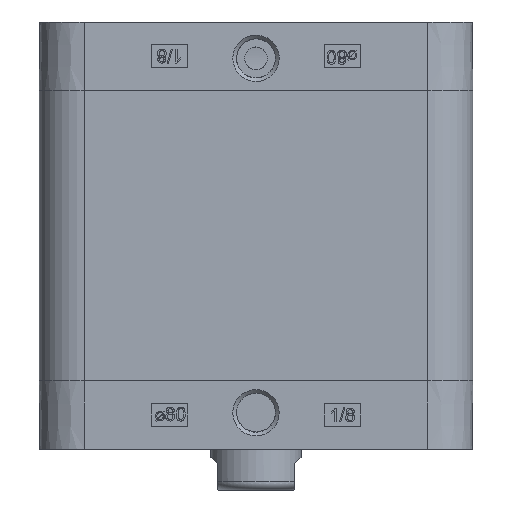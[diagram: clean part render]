
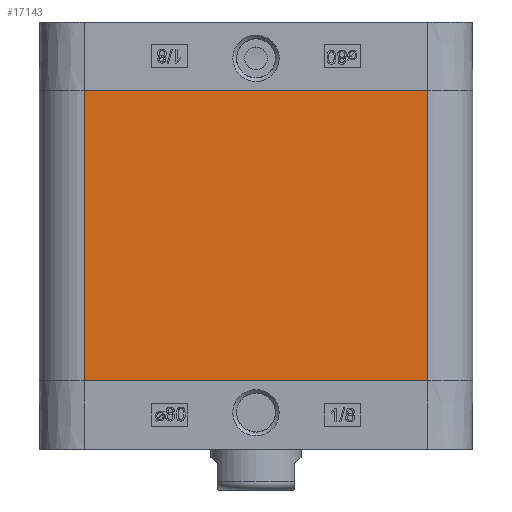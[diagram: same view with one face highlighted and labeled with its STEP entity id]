
A CAD part, left-side view. The second image highlights one B-rep face of the part: STEP entity #17143.
In plain terms, the highlighted planar face has unit normal (-1, 0, 0).
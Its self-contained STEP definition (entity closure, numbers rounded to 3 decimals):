
#1009=PLANE('',#18142);
#1917=LINE('',#26685,#2985);
#1918=LINE('',#26687,#2986);
#1919=LINE('',#26689,#2987);
#1920=LINE('',#26691,#2988);
#2985=VECTOR('',#20961,1000.);
#2986=VECTOR('',#20964,1000.);
#2987=VECTOR('',#20965,1000.);
#2988=VECTOR('',#20966,1000.);
#6166=ORIENTED_EDGE('',*,*,#8321,.T.);
#6167=ORIENTED_EDGE('',*,*,#8320,.F.);
#6168=ORIENTED_EDGE('',*,*,#8322,.F.);
#6169=ORIENTED_EDGE('',*,*,#8323,.T.);
#8320=EDGE_CURVE('',#9692,#9689,#1917,.T.);
#8321=EDGE_CURVE('',#9693,#9689,#1918,.T.);
#8322=EDGE_CURVE('',#9694,#9692,#1919,.T.);
#8323=EDGE_CURVE('',#9694,#9693,#1920,.T.);
#9689=VERTEX_POINT('',#26679);
#9692=VERTEX_POINT('',#26684);
#9693=VERTEX_POINT('',#26688);
#9694=VERTEX_POINT('',#26690);
#11129=EDGE_LOOP('',(#6166,#6167,#6168,#6169));
#12046=FACE_BOUND('',#11129,.T.);
#17143=ADVANCED_FACE('',(#12046),#1009,.T.);
#18142=AXIS2_PLACEMENT_3D('',#26686,#20962,#20963);
#20961=DIRECTION('',(0.,0.,1.));
#20962=DIRECTION('',(-1.,0.,0.));
#20963=DIRECTION('',(0.,0.,1.));
#20964=DIRECTION('',(0.,1.,0.));
#20965=DIRECTION('',(0.,1.,0.));
#20966=DIRECTION('',(0.,0.,1.));
#26679=CARTESIAN_POINT('',(-47.75,37.75,29.));
#26684=CARTESIAN_POINT('',(-47.75,37.75,-35.));
#26685=CARTESIAN_POINT('',(-47.75,37.75,0.));
#26686=CARTESIAN_POINT('',(-47.75,-37.75,0.));
#26687=CARTESIAN_POINT('',(-47.75,-37.75,29.));
#26688=CARTESIAN_POINT('',(-47.75,-37.75,29.));
#26689=CARTESIAN_POINT('',(-47.75,-37.75,-35.));
#26690=CARTESIAN_POINT('',(-47.75,-37.75,-35.));
#26691=CARTESIAN_POINT('',(-47.75,-37.75,0.));
